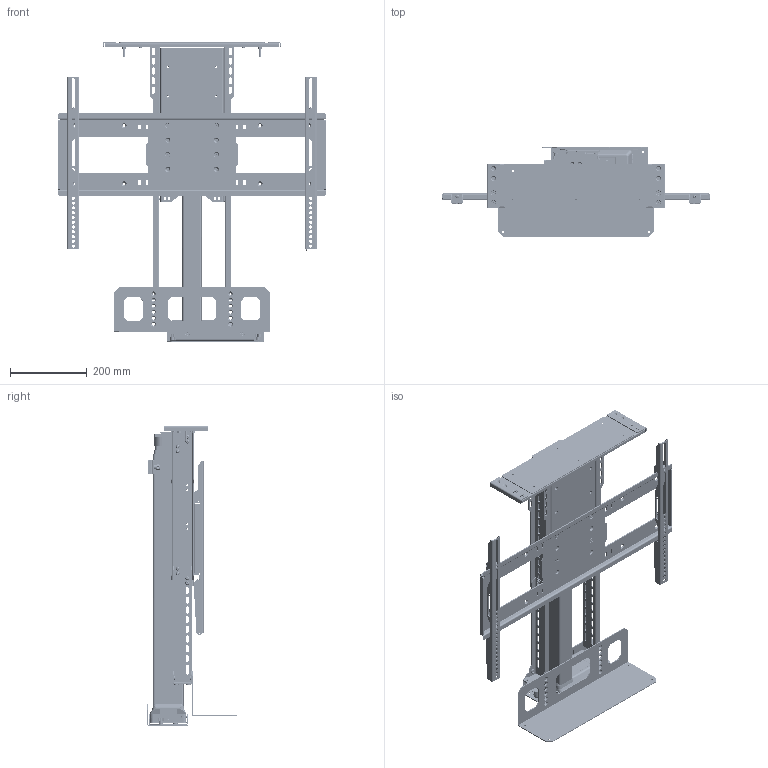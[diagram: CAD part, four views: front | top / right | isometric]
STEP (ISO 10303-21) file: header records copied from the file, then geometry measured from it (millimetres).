
FILE_DESCRIPTION(/* description */ ('STEP AP242','CAx-IF Rec.Pracs.---Representation and Presentation of Product Manufacturing Information (PMI)---4.0---2014-10-13','CAx-IF Rec.Pracs.---3D Tessellated Geometry---0.4---2014-09-14','2;1'),/* implementation_level */ '2;1');
FILE_NAME(/* name */ '63f8fa45155145463c3983ef',/* time_stamp */ '2023-02-24T17:56:27+00:00',/* author */ (''),/* organization */ (''),/* preprocessor_version */ 'ST-DEVELOPER v18.102',/* originating_system */ ' ',/* authorisation */ ' ');
FILE_SCHEMA (('AP242_MANAGED_MODEL_BASED_3D_ENGINEERING_MIM_LF { 1 0 10303 442 1 1 4 }'));
Products named in the file (67): L-65/s; Hex socket countersunk head screw M6x1 x 12; Socket button head screw M6x1 x 12; WDS8151-215; Universal Swivel Master Assembly <1>; Socket button head screw M6x1 x 10; SW-NE-005 - SWIVEL TOP PLATE; NEX-SW-001 - DL16 SWIVEL BOTTOM SPACER; SW-NE-002 - SWIVEL BOTTOM PLATE; ULS-NX-011 - ULS ACCESSORY MOUNTING BRACKET SPACER <2>; ULS-NX-011 - UL ACCESSORY MOUNTING BRACKET SPACER; PRODUCT_NAME_1; ULS Accessories <1>; ULS-NX-010 - ULS ACCESSORY MOUNTING BRACKET W PEMS <2>; PEM CLS-M6-2  ; ULS-NX-010 - UL ACCESSORY MOUNTING BRACKET; NEX-LM-013 - CENTER CHANNEL MOUNT - REV B; ULS-NX-010 - ULS ACCESSORY MOUNTING BRACKET W PEMS <1>; ULS-NX-108 - ULS SCREEN SUPPORT WELDMENT <1>; PEM CLS-M6-1  ; F-M6-3 M6 PEM NUT; ULS-NX-008 - UL SCREEN SUPPORT SHELL; ULS-NX-009 - ULS SCREEN SUPPORT TOP PLATE <1>; ULS-NX-009 - UL SCREEN SUPPORT TOP PLATE; Lid Plate Assembly W/ Lid Supports <1>; ULS-NX-012 - ULS LID SUPPORT W PEMS <1>; UL LID SUPPORT (ULS-NX-012); ULS-NX-012 - ULS LID SUPPORT W PEMS <2>; LID-FL-ULS - ULS Lid Plate Assembly <1>; ULS-NX-006 - Lid Adapter W/ Pin <1>; OLD_ULS-NX-006 - UL LID ADAPTER <1>; ULS-NX-006 - UL LID ADAPTER; FHS-273-24 PEM; FL Sub Asm <1>; 97069A106_Zinc-Plated Steel Spring Lock Washer; Plain washer large grade A M6; Hex socket countersunk head screw M6x1 x 8; ULS-NX-007 - UL LID PLATE EXTENDER; Hex nut grade C M6x1; NEX-LM-032 LID PIN GUIDE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
Assembly tree (200 placements, depth 6):
  L-65/s
    Hex socket countersunk head screw M6x1 x 12  x16
    Socket button head screw M6x1 x 12  x16
    WDS8151-215  x4
    Universal Swivel Master Assembly <1>
      Socket button head screw M6x1 x 10  x4
      SW-NE-005 - SWIVEL TOP PLATE
      NEX-SW-001 - DL16 SWIVEL BOTTOM SPACER
      SW-NE-002 - SWIVEL BOTTOM PLATE
    ULS-NX-011 - ULS ACCESSORY MOUNTING BRACKET SPACER <2>
      ULS-NX-011 - UL ACCESSORY MOUNTING BRACKET SPACER
      PRODUCT_NAME_1  x2
    ULS Accessories <1>
      ULS-NX-010 - ULS ACCESSORY MOUNTING BRACKET W PEMS <2>
        PEM CLS-M6-2    x4
        ULS-NX-010 - UL ACCESSORY MOUNTING BRACKET
      NEX-LM-013 - CENTER CHANNEL MOUNT - REV B
      ULS-NX-010 - ULS ACCESSORY MOUNTING BRACKET W PEMS <1>
        PEM CLS-M6-2    x4
        ULS-NX-010 - UL ACCESSORY MOUNTING BRACKET
    ULS-NX-108 - ULS SCREEN SUPPORT WELDMENT <1>
      PEM CLS-M6-1    x32
      F-M6-3 M6 PEM NUT
      ULS-NX-008 - UL SCREEN SUPPORT SHELL
      ULS-NX-009 - ULS SCREEN SUPPORT TOP PLATE <1>
        PEM CLS-M6-1    x4
        ULS-NX-009 - UL SCREEN SUPPORT TOP PLATE
    Lid Plate Assembly W/ Lid Supports <1>
      ULS-NX-012 - ULS LID SUPPORT W PEMS <1>
        PEM CLS-M6-2    x2
        UL LID SUPPORT (ULS-NX-012)
      ULS-NX-012 - ULS LID SUPPORT W PEMS <2>
        PEM CLS-M6-2    x2
        UL LID SUPPORT (ULS-NX-012)
      LID-FL-ULS - ULS Lid Plate Assembly <1>
        ULS-NX-006 - Lid Adapter W/ Pin <1>
          OLD_ULS-NX-006 - UL LID ADAPTER <1>
            ULS-NX-006 - UL LID ADAPTER
            FHS-273-24 PEM  x2
        FL Sub Asm <1>
          97069A106_Zinc-Plated Steel Spring Lock Washer  x4
          Plain washer large grade A M6  x4
          Hex socket countersunk head screw M6x1 x 8  x4
          ULS-NX-007 - UL LID PLATE EXTENDER  x2
          Hex nut grade C M6x1  x4
          NEX-LM-032 LID PIN GUIDE  x2
          ULS-NX-005 - UL LID PLATE W PEMS <1>
            PEM CLS-M6-2    x8
            ULS-NX-005 - UL LID PLATE
            PEM FHS-M6-15    x4
    SBP & VMB <1>
      PZ Pan head screw M5x0.80 x 25  x2
      ULS-NX-017 - UL SCREEN BACK PLATE
      ULS-NX-118 - UL VMB WELDMENT <2>
        Socket button head cap screw #6-32 x 0.188  x2
        VMB Washer  x4
        ULS-NX-019 - UL LEVEL ADJUSTMENT PLATE
        PEM BSO-632-10  ZI  x2
        90107A012  x2
        ULS-NX-018 - UL VERICAL MOUNTING BAR
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Bounding box: 698.5 x 235.02 x 783.38 mm (x, y, z)
Volume: 9313211.9 mm3; surface area: 2166855.5 mm2
Topology: 178 solids, 178 shells, 12345 faces, 32904 edges, 21348 vertices
Faces by surface type: plane 8616, cylinder 2132, cone 794, bspline 535, torus 222, sphere 46
Full cylindrical faces by diameter (mm): 1.778 x2, 2.642 x4, 3.505 x4, 4.6 x2, 4.917 x61, 4.978 x4, 5 x24, 5.004 x4, 5.026 x4, 5.08 x4, 5.277 x8, 5.3 x6, 5.385 x12, 5.41 x8, 5.486 x4, 5.499 x2, 5.6 x4, 5.613 x6, 5.944 x4, 5.994 x3, 6 x74, 6.095 x2, 6.35 x22, 6.4 x4, 6.528 x5, 6.6 x10, 6.604 x4, 6.655 x4, 6.934 x2, 6.976 x1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
Entity records: 109982 total; most frequent: CARTESIAN_POINT 20996, DIRECTION 17549, ORIENTED_EDGE 16810, EDGE_CURVE 8405, AXIS2_PLACEMENT_3D 6077, VERTEX_POINT 5631, LINE 5395, VECTOR 5395
